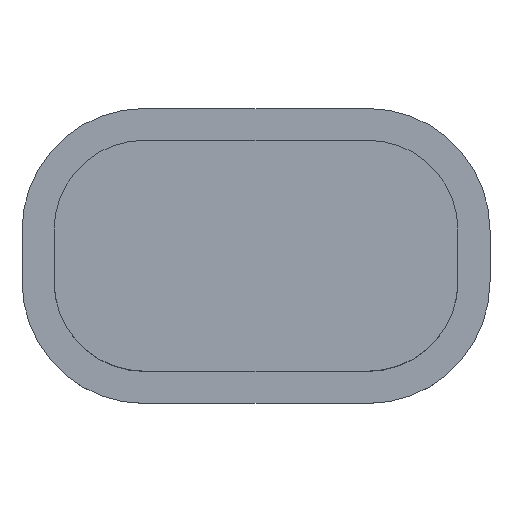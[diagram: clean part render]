
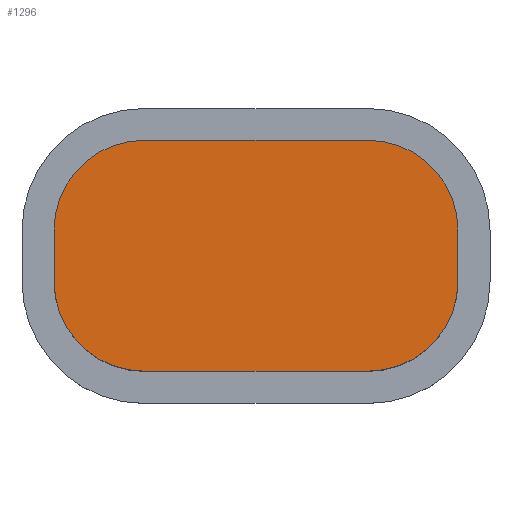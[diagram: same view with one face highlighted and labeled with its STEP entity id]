
A CAD part, top view. The second image highlights one B-rep face of the part: STEP entity #1296.
In plain terms, the highlighted planar face has unit normal (0, 0, 1).
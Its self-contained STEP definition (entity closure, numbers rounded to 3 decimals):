
#572 = CYLINDRICAL_SURFACE('',#573,1.4);
#573 = AXIS2_PLACEMENT_3D('',#574,#575,#576);
#574 = CARTESIAN_POINT('',(45.9,36.6,5.6));
#575 = DIRECTION('',(-0.,-0.,-1.));
#576 = DIRECTION('',(1.,0.,0.));
#600 = PLANE('',#601);
#601 = AXIS2_PLACEMENT_3D('',#602,#603,#604);
#602 = CARTESIAN_POINT('',(44.5,36.6,5.6));
#603 = DIRECTION('',(-1.,0.,0.));
#604 = DIRECTION('',(0.,1.,0.));
#629 = CYLINDRICAL_SURFACE('',#630,1.4);
#630 = AXIS2_PLACEMENT_3D('',#631,#632,#633);
#631 = CARTESIAN_POINT('',(45.9,37.4,5.6));
#632 = DIRECTION('',(-0.,-0.,-1.));
#633 = DIRECTION('',(1.,0.,0.));
#657 = PLANE('',#658);
#658 = AXIS2_PLACEMENT_3D('',#659,#660,#661);
#659 = CARTESIAN_POINT('',(45.9,38.8,5.6));
#660 = DIRECTION('',(0.,1.,0.));
#661 = DIRECTION('',(1.,0.,0.));
#686 = CYLINDRICAL_SURFACE('',#687,1.4);
#687 = AXIS2_PLACEMENT_3D('',#688,#689,#690);
#688 = CARTESIAN_POINT('',(49.4,37.4,5.6));
#689 = DIRECTION('',(-0.,-0.,-1.));
#690 = DIRECTION('',(1.,0.,0.));
#714 = PLANE('',#715);
#715 = AXIS2_PLACEMENT_3D('',#716,#717,#718);
#716 = CARTESIAN_POINT('',(50.8,36.6,5.6));
#717 = DIRECTION('',(-1.,0.,0.));
#718 = DIRECTION('',(0.,1.,0.));
#743 = CYLINDRICAL_SURFACE('',#744,1.4);
#744 = AXIS2_PLACEMENT_3D('',#745,#746,#747);
#745 = CARTESIAN_POINT('',(49.4,36.6,5.6));
#746 = DIRECTION('',(-0.,-0.,-1.));
#747 = DIRECTION('',(1.,0.,0.));
#769 = PLANE('',#770);
#770 = AXIS2_PLACEMENT_3D('',#771,#772,#773);
#771 = CARTESIAN_POINT('',(45.9,35.2,5.6));
#772 = DIRECTION('',(0.,1.,0.));
#773 = DIRECTION('',(1.,0.,0.));
#900 = VERTEX_POINT('',#901);
#901 = CARTESIAN_POINT('',(44.5,36.6,7.9));
#922 = EDGE_CURVE('',#900,#923,#925,.T.);
#923 = VERTEX_POINT('',#924);
#924 = CARTESIAN_POINT('',(45.9,35.2,7.9));
#925 = SURFACE_CURVE('',#926,(#931,#938),.PCURVE_S1.);
#926 = CIRCLE('',#927,1.4);
#927 = AXIS2_PLACEMENT_3D('',#928,#929,#930);
#928 = CARTESIAN_POINT('',(45.9,36.6,7.9));
#929 = DIRECTION('',(0.,0.,1.));
#930 = DIRECTION('',(1.,0.,0.));
#931 = PCURVE('',#572,#932);
#932 = DEFINITIONAL_REPRESENTATION('',(#933),#937);
#933 = LINE('',#934,#935);
#934 = CARTESIAN_POINT('',(-0.,-2.3));
#935 = VECTOR('',#936,1.);
#936 = DIRECTION('',(-1.,0.));
#937 = ( GEOMETRIC_REPRESENTATION_CONTEXT(2) 
PARAMETRIC_REPRESENTATION_CONTEXT() REPRESENTATION_CONTEXT('2D SPACE',''
  ) );
#938 = PCURVE('',#939,#944);
#939 = PLANE('',#940);
#940 = AXIS2_PLACEMENT_3D('',#941,#942,#943);
#941 = CARTESIAN_POINT('',(47.65,37.,7.9));
#942 = DIRECTION('',(0.,0.,1.));
#943 = DIRECTION('',(1.,0.,0.));
#944 = DEFINITIONAL_REPRESENTATION('',(#945),#949);
#945 = CIRCLE('',#946,1.4);
#946 = AXIS2_PLACEMENT_2D('',#947,#948);
#947 = CARTESIAN_POINT('',(-1.75,-0.4));
#948 = DIRECTION('',(1.,0.));
#949 = ( GEOMETRIC_REPRESENTATION_CONTEXT(2) 
PARAMETRIC_REPRESENTATION_CONTEXT() REPRESENTATION_CONTEXT('2D SPACE',''
  ) );
#977 = EDGE_CURVE('',#923,#978,#980,.T.);
#978 = VERTEX_POINT('',#979);
#979 = CARTESIAN_POINT('',(49.4,35.2,7.9));
#980 = SURFACE_CURVE('',#981,(#985,#992),.PCURVE_S1.);
#981 = LINE('',#982,#983);
#982 = CARTESIAN_POINT('',(47.65,35.2,7.9));
#983 = VECTOR('',#984,1.);
#984 = DIRECTION('',(1.,0.,0.));
#985 = PCURVE('',#769,#986);
#986 = DEFINITIONAL_REPRESENTATION('',(#987),#991);
#987 = LINE('',#988,#989);
#988 = CARTESIAN_POINT('',(1.75,-2.3));
#989 = VECTOR('',#990,1.);
#990 = DIRECTION('',(1.,0.));
#991 = ( GEOMETRIC_REPRESENTATION_CONTEXT(2) 
PARAMETRIC_REPRESENTATION_CONTEXT() REPRESENTATION_CONTEXT('2D SPACE',''
  ) );
#992 = PCURVE('',#939,#993);
#993 = DEFINITIONAL_REPRESENTATION('',(#994),#998);
#994 = LINE('',#995,#996);
#995 = CARTESIAN_POINT('',(0.,-1.8));
#996 = VECTOR('',#997,1.);
#997 = DIRECTION('',(1.,0.));
#998 = ( GEOMETRIC_REPRESENTATION_CONTEXT(2) 
PARAMETRIC_REPRESENTATION_CONTEXT() REPRESENTATION_CONTEXT('2D SPACE',''
  ) );
#1026 = EDGE_CURVE('',#978,#1027,#1029,.T.);
#1027 = VERTEX_POINT('',#1028);
#1028 = CARTESIAN_POINT('',(50.8,36.6,7.9));
#1029 = SURFACE_CURVE('',#1030,(#1035,#1042),.PCURVE_S1.);
#1030 = CIRCLE('',#1031,1.4);
#1031 = AXIS2_PLACEMENT_3D('',#1032,#1033,#1034);
#1032 = CARTESIAN_POINT('',(49.4,36.6,7.9));
#1033 = DIRECTION('',(0.,0.,1.));
#1034 = DIRECTION('',(1.,0.,0.));
#1035 = PCURVE('',#743,#1036);
#1036 = DEFINITIONAL_REPRESENTATION('',(#1037),#1041);
#1037 = LINE('',#1038,#1039);
#1038 = CARTESIAN_POINT('',(-0.,-2.3));
#1039 = VECTOR('',#1040,1.);
#1040 = DIRECTION('',(-1.,0.));
#1041 = ( GEOMETRIC_REPRESENTATION_CONTEXT(2) 
PARAMETRIC_REPRESENTATION_CONTEXT() REPRESENTATION_CONTEXT('2D SPACE',''
  ) );
#1042 = PCURVE('',#939,#1043);
#1043 = DEFINITIONAL_REPRESENTATION('',(#1044),#1048);
#1044 = CIRCLE('',#1045,1.4);
#1045 = AXIS2_PLACEMENT_2D('',#1046,#1047);
#1046 = CARTESIAN_POINT('',(1.75,-0.4));
#1047 = DIRECTION('',(1.,0.));
#1048 = ( GEOMETRIC_REPRESENTATION_CONTEXT(2) 
PARAMETRIC_REPRESENTATION_CONTEXT() REPRESENTATION_CONTEXT('2D SPACE',''
  ) );
#1076 = EDGE_CURVE('',#1027,#1077,#1079,.T.);
#1077 = VERTEX_POINT('',#1078);
#1078 = CARTESIAN_POINT('',(50.8,37.4,7.9));
#1079 = SURFACE_CURVE('',#1080,(#1084,#1091),.PCURVE_S1.);
#1080 = LINE('',#1081,#1082);
#1081 = CARTESIAN_POINT('',(50.8,37.,7.9));
#1082 = VECTOR('',#1083,1.);
#1083 = DIRECTION('',(0.,1.,0.));
#1084 = PCURVE('',#714,#1085);
#1085 = DEFINITIONAL_REPRESENTATION('',(#1086),#1090);
#1086 = LINE('',#1087,#1088);
#1087 = CARTESIAN_POINT('',(0.4,-2.3));
#1088 = VECTOR('',#1089,1.);
#1089 = DIRECTION('',(1.,0.));
#1090 = ( GEOMETRIC_REPRESENTATION_CONTEXT(2) 
PARAMETRIC_REPRESENTATION_CONTEXT() REPRESENTATION_CONTEXT('2D SPACE',''
  ) );
#1091 = PCURVE('',#939,#1092);
#1092 = DEFINITIONAL_REPRESENTATION('',(#1093),#1097);
#1093 = LINE('',#1094,#1095);
#1094 = CARTESIAN_POINT('',(3.15,0.));
#1095 = VECTOR('',#1096,1.);
#1096 = DIRECTION('',(0.,1.));
#1097 = ( GEOMETRIC_REPRESENTATION_CONTEXT(2) 
PARAMETRIC_REPRESENTATION_CONTEXT() REPRESENTATION_CONTEXT('2D SPACE',''
  ) );
#1125 = EDGE_CURVE('',#1077,#1126,#1128,.T.);
#1126 = VERTEX_POINT('',#1127);
#1127 = CARTESIAN_POINT('',(49.4,38.8,7.9));
#1128 = SURFACE_CURVE('',#1129,(#1134,#1141),.PCURVE_S1.);
#1129 = CIRCLE('',#1130,1.4);
#1130 = AXIS2_PLACEMENT_3D('',#1131,#1132,#1133);
#1131 = CARTESIAN_POINT('',(49.4,37.4,7.9));
#1132 = DIRECTION('',(0.,0.,1.));
#1133 = DIRECTION('',(1.,0.,0.));
#1134 = PCURVE('',#686,#1135);
#1135 = DEFINITIONAL_REPRESENTATION('',(#1136),#1140);
#1136 = LINE('',#1137,#1138);
#1137 = CARTESIAN_POINT('',(-0.,-2.3));
#1138 = VECTOR('',#1139,1.);
#1139 = DIRECTION('',(-1.,0.));
#1140 = ( GEOMETRIC_REPRESENTATION_CONTEXT(2) 
PARAMETRIC_REPRESENTATION_CONTEXT() REPRESENTATION_CONTEXT('2D SPACE',''
  ) );
#1141 = PCURVE('',#939,#1142);
#1142 = DEFINITIONAL_REPRESENTATION('',(#1143),#1147);
#1143 = CIRCLE('',#1144,1.4);
#1144 = AXIS2_PLACEMENT_2D('',#1145,#1146);
#1145 = CARTESIAN_POINT('',(1.75,0.4));
#1146 = DIRECTION('',(1.,0.));
#1147 = ( GEOMETRIC_REPRESENTATION_CONTEXT(2) 
PARAMETRIC_REPRESENTATION_CONTEXT() REPRESENTATION_CONTEXT('2D SPACE',''
  ) );
#1175 = VERTEX_POINT('',#1176);
#1176 = CARTESIAN_POINT('',(45.9,38.8,7.9));
#1197 = EDGE_CURVE('',#1175,#1126,#1198,.T.);
#1198 = SURFACE_CURVE('',#1199,(#1203,#1210),.PCURVE_S1.);
#1199 = LINE('',#1200,#1201);
#1200 = CARTESIAN_POINT('',(47.65,38.8,7.9));
#1201 = VECTOR('',#1202,1.);
#1202 = DIRECTION('',(1.,0.,0.));
#1203 = PCURVE('',#657,#1204);
#1204 = DEFINITIONAL_REPRESENTATION('',(#1205),#1209);
#1205 = LINE('',#1206,#1207);
#1206 = CARTESIAN_POINT('',(1.75,-2.3));
#1207 = VECTOR('',#1208,1.);
#1208 = DIRECTION('',(1.,0.));
#1209 = ( GEOMETRIC_REPRESENTATION_CONTEXT(2) 
PARAMETRIC_REPRESENTATION_CONTEXT() REPRESENTATION_CONTEXT('2D SPACE',''
  ) );
#1210 = PCURVE('',#939,#1211);
#1211 = DEFINITIONAL_REPRESENTATION('',(#1212),#1216);
#1212 = LINE('',#1213,#1214);
#1213 = CARTESIAN_POINT('',(0.,1.8));
#1214 = VECTOR('',#1215,1.);
#1215 = DIRECTION('',(1.,0.));
#1216 = ( GEOMETRIC_REPRESENTATION_CONTEXT(2) 
PARAMETRIC_REPRESENTATION_CONTEXT() REPRESENTATION_CONTEXT('2D SPACE',''
  ) );
#1224 = EDGE_CURVE('',#1175,#1225,#1227,.T.);
#1225 = VERTEX_POINT('',#1226);
#1226 = CARTESIAN_POINT('',(44.5,37.4,7.9));
#1227 = SURFACE_CURVE('',#1228,(#1233,#1240),.PCURVE_S1.);
#1228 = CIRCLE('',#1229,1.4);
#1229 = AXIS2_PLACEMENT_3D('',#1230,#1231,#1232);
#1230 = CARTESIAN_POINT('',(45.9,37.4,7.9));
#1231 = DIRECTION('',(0.,0.,1.));
#1232 = DIRECTION('',(1.,0.,0.));
#1233 = PCURVE('',#629,#1234);
#1234 = DEFINITIONAL_REPRESENTATION('',(#1235),#1239);
#1235 = LINE('',#1236,#1237);
#1236 = CARTESIAN_POINT('',(-0.,-2.3));
#1237 = VECTOR('',#1238,1.);
#1238 = DIRECTION('',(-1.,0.));
#1239 = ( GEOMETRIC_REPRESENTATION_CONTEXT(2) 
PARAMETRIC_REPRESENTATION_CONTEXT() REPRESENTATION_CONTEXT('2D SPACE',''
  ) );
#1240 = PCURVE('',#939,#1241);
#1241 = DEFINITIONAL_REPRESENTATION('',(#1242),#1246);
#1242 = CIRCLE('',#1243,1.4);
#1243 = AXIS2_PLACEMENT_2D('',#1244,#1245);
#1244 = CARTESIAN_POINT('',(-1.75,0.4));
#1245 = DIRECTION('',(1.,0.));
#1246 = ( GEOMETRIC_REPRESENTATION_CONTEXT(2) 
PARAMETRIC_REPRESENTATION_CONTEXT() REPRESENTATION_CONTEXT('2D SPACE',''
  ) );
#1274 = EDGE_CURVE('',#900,#1225,#1275,.T.);
#1275 = SURFACE_CURVE('',#1276,(#1280,#1287),.PCURVE_S1.);
#1276 = LINE('',#1277,#1278);
#1277 = CARTESIAN_POINT('',(44.5,37.,7.9));
#1278 = VECTOR('',#1279,1.);
#1279 = DIRECTION('',(0.,1.,0.));
#1280 = PCURVE('',#600,#1281);
#1281 = DEFINITIONAL_REPRESENTATION('',(#1282),#1286);
#1282 = LINE('',#1283,#1284);
#1283 = CARTESIAN_POINT('',(0.4,-2.3));
#1284 = VECTOR('',#1285,1.);
#1285 = DIRECTION('',(1.,0.));
#1286 = ( GEOMETRIC_REPRESENTATION_CONTEXT(2) 
PARAMETRIC_REPRESENTATION_CONTEXT() REPRESENTATION_CONTEXT('2D SPACE',''
  ) );
#1287 = PCURVE('',#939,#1288);
#1288 = DEFINITIONAL_REPRESENTATION('',(#1289),#1293);
#1289 = LINE('',#1290,#1291);
#1290 = CARTESIAN_POINT('',(-3.15,0.));
#1291 = VECTOR('',#1292,1.);
#1292 = DIRECTION('',(0.,1.));
#1293 = ( GEOMETRIC_REPRESENTATION_CONTEXT(2) 
PARAMETRIC_REPRESENTATION_CONTEXT() REPRESENTATION_CONTEXT('2D SPACE',''
  ) );
#1296 = ADVANCED_FACE('',(#1297),#939,.T.);
#1297 = FACE_BOUND('',#1298,.T.);
#1298 = EDGE_LOOP('',(#1299,#1300,#1301,#1302,#1303,#1304,#1305,#1306));
#1299 = ORIENTED_EDGE('',*,*,#1274,.F.);
#1300 = ORIENTED_EDGE('',*,*,#922,.T.);
#1301 = ORIENTED_EDGE('',*,*,#977,.T.);
#1302 = ORIENTED_EDGE('',*,*,#1026,.T.);
#1303 = ORIENTED_EDGE('',*,*,#1076,.T.);
#1304 = ORIENTED_EDGE('',*,*,#1125,.T.);
#1305 = ORIENTED_EDGE('',*,*,#1197,.F.);
#1306 = ORIENTED_EDGE('',*,*,#1224,.T.);
